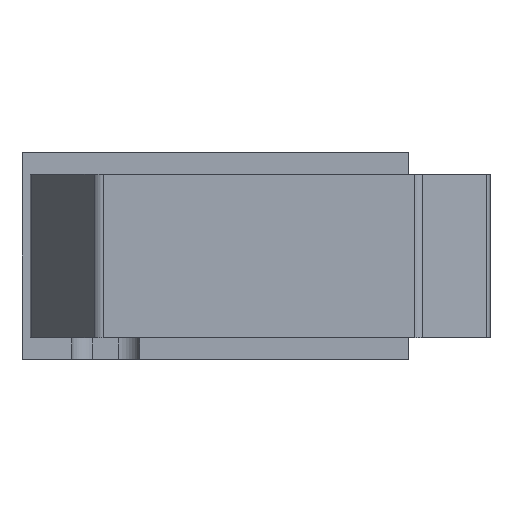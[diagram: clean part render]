
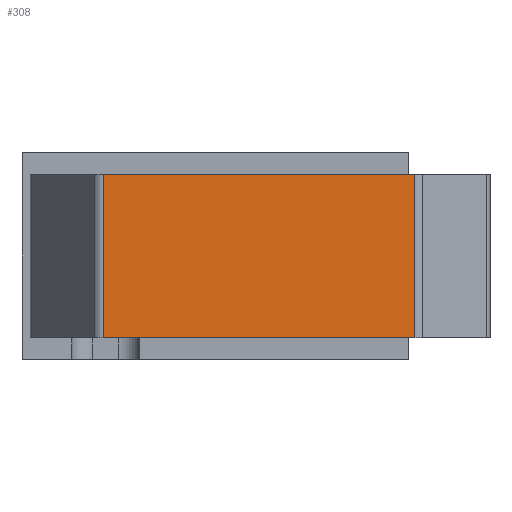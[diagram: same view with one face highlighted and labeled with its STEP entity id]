
A CAD part, front view. The second image highlights one B-rep face of the part: STEP entity #308.
In plain terms, the highlighted planar face has unit normal (0, -1, 0).
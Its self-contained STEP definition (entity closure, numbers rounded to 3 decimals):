
#235 = EDGE_LOOP ( 'NONE', ( #242, #310, #294, #236 ) ) ;
#236 = ORIENTED_EDGE ( 'NONE', *, *, #295, .T. ) ;
#242 = ORIENTED_EDGE ( 'NONE', *, *, #262, .F. ) ;
#262 = EDGE_CURVE ( 'NONE', #498, #309, #1763, .T. ) ;
#293 = EDGE_CURVE ( 'NONE', #311, #497, #1929, .T. ) ;
#294 = ORIENTED_EDGE ( 'NONE', *, *, #293, .F. ) ;
#295 = EDGE_CURVE ( 'NONE', #311, #309, #1923, .T. ) ;
#305 = EDGE_CURVE ( 'NONE', #498, #497, #1974, .T. ) ;
#308 = ADVANCED_FACE ( 'NONE', ( #1949 ), #1946, .T. ) ;
#309 = VERTEX_POINT ( 'NONE', #1999 ) ;
#310 = ORIENTED_EDGE ( 'NONE', *, *, #305, .T. ) ;
#311 = VERTEX_POINT ( 'NONE', #1944 ) ;
#497 = VERTEX_POINT ( 'NONE', #2295 ) ;
#498 = VERTEX_POINT ( 'NONE', #2296 ) ;
#1733 = VECTOR ( 'NONE', #1745, 1000. ) ;
#1745 = DIRECTION ( 'NONE',  ( 1., 0., 0. ) ) ;
#1763 = LINE ( 'NONE', #1765, #1733 ) ;
#1765 = CARTESIAN_POINT ( 'NONE',  ( 0.5, 0., 2.5 ) ) ;
#1918 = DIRECTION ( 'NONE',  ( 0., 0., 1. ) ) ;
#1919 = VECTOR ( 'NONE', #1918, 1000. ) ;
#1922 = CARTESIAN_POINT ( 'NONE',  ( 18.793, 0., -6.1 ) ) ;
#1923 = LINE ( 'NONE', #1922, #1919 ) ;
#1926 = DIRECTION ( 'NONE',  ( -1., 0., 0. ) ) ;
#1927 = VECTOR ( 'NONE', #1926, 1000. ) ;
#1928 = CARTESIAN_POINT ( 'NONE',  ( 0.5, 0., -5.1 ) ) ;
#1929 = LINE ( 'NONE', #1928, #1927 ) ;
#1938 = DIRECTION ( 'NONE',  ( 0., -1., 0. ) ) ;
#1941 = AXIS2_PLACEMENT_3D ( 'NONE', #1945, #1938, #1953 ) ;
#1944 = CARTESIAN_POINT ( 'NONE',  ( 18.793, 0., -5.1 ) ) ;
#1945 = CARTESIAN_POINT ( 'NONE',  ( 4., 0., -6.1 ) ) ;
#1946 = PLANE ( 'NONE',  #1941 ) ;
#1949 = FACE_OUTER_BOUND ( 'NONE', #235, .T. ) ;
#1950 = VECTOR ( 'NONE', #2006, 1000. ) ;
#1953 = DIRECTION ( 'NONE',  ( 0., 0., -1. ) ) ;
#1974 = LINE ( 'NONE', #1982, #1950 ) ;
#1982 = CARTESIAN_POINT ( 'NONE',  ( 4.282, 0., -6.1 ) ) ;
#1999 = CARTESIAN_POINT ( 'NONE',  ( 18.793, 0., 2.5 ) ) ;
#2006 = DIRECTION ( 'NONE',  ( 0., 0., -1. ) ) ;
#2295 = CARTESIAN_POINT ( 'NONE',  ( 4.282, 0., -5.1 ) ) ;
#2296 = CARTESIAN_POINT ( 'NONE',  ( 4.282, 0., 2.5 ) ) ;
